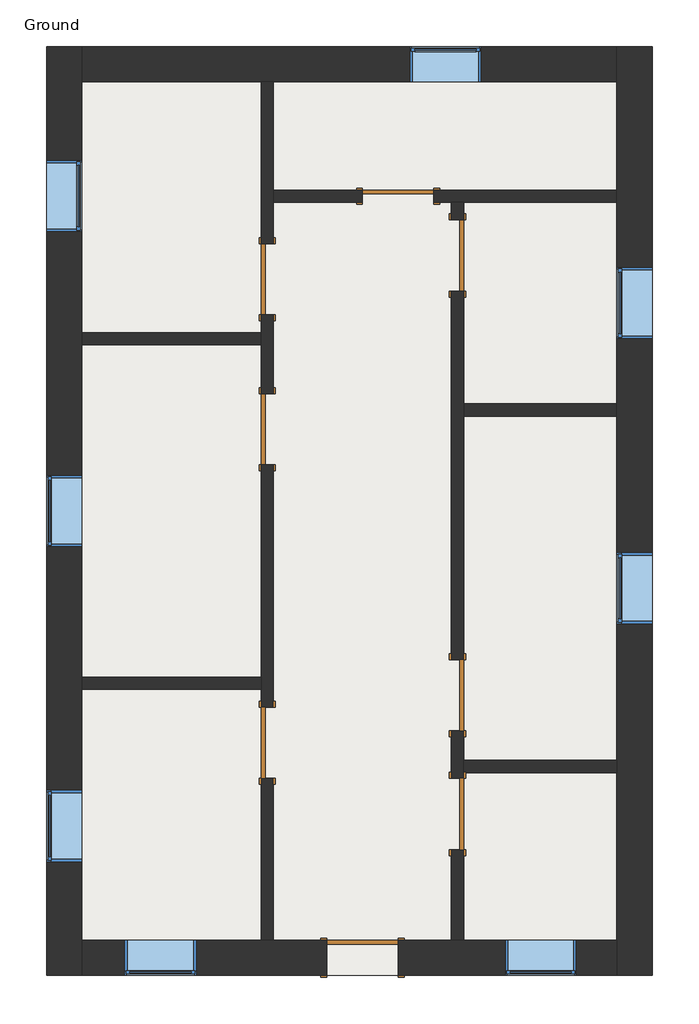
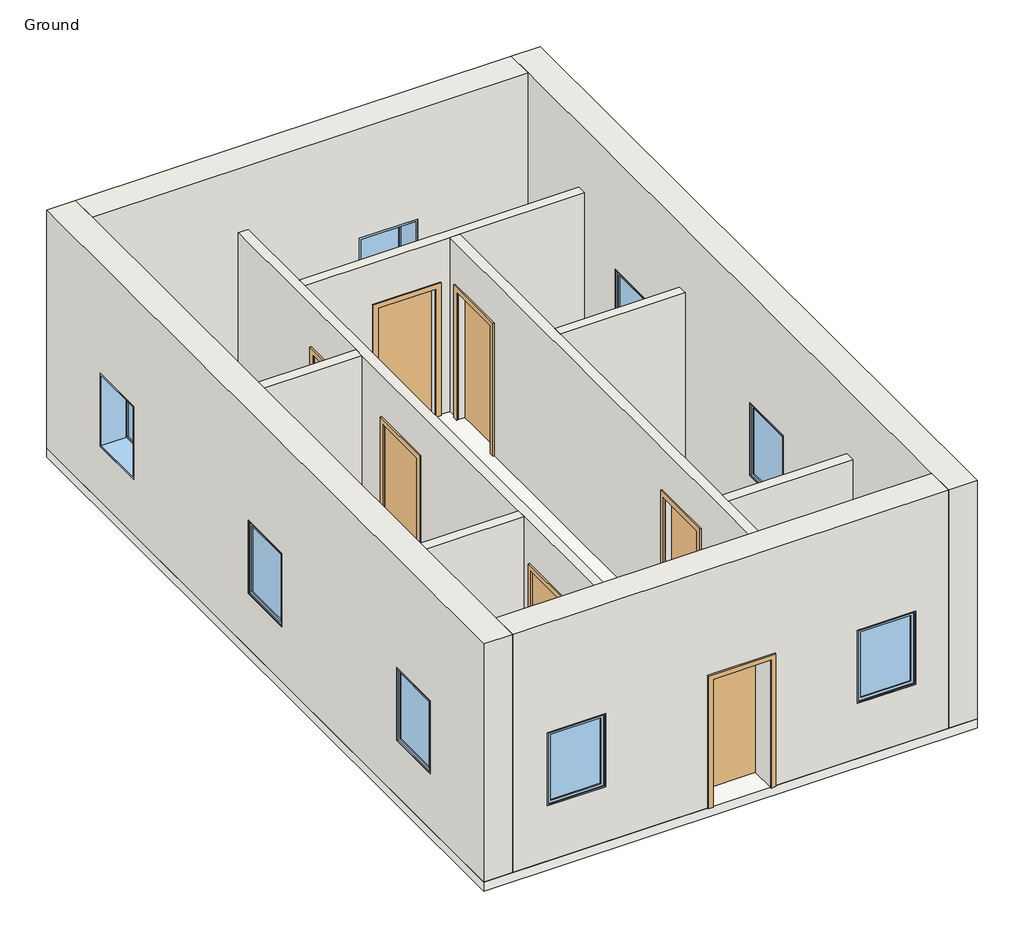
# One storey: 11 walls, 8 doors, 8 windows, 1 slab.
"""IFC4 building model written with IfcOpenShell, lengths in millimetres."""

import ifcopenshell
import ifcopenshell.guid

model = None  # the IFC model being written
_history = None  # IfcOwnerHistory: only IFC2X3 demands one
_inside = {}  # id of a spatial element -> (the spatial element, [elements in it])
_under = {}  # id of a project, library or spatial element -> (it, [spatial elements below it])
_declared = {}  # id of a project -> (the project, [libraries it declares])
_typed = {}  # id of a type object -> (the type object, [elements of that type])
_made_of = {}  # id of a material, layer set ... -> (it, [elements and type objects made of it])


def new_model(schema):
    """Start an empty IFC model of exactly this schema.

    Asked for "IFC4X3", IfcOpenShell would pick the latest addendum, in which some entities
    have other attributes; the version numbers below select the first issue.
    IFC2X3 requires an IfcOwnerHistory on every rooted entity: one is made here for all.
    """
    global model, _history
    if schema == "IFC4X3":
        model = ifcopenshell.file(schema_version=(4, 3, 0, 0))
    else:
        model = ifcopenshell.file(schema=schema)
    _inside.clear()
    _under.clear()
    _declared.clear()
    _typed.clear()
    _made_of.clear()
    _history = None
    if model.schema == "IFC2X3":
        org = make("IfcOrganization", Name="unknown")
        user = make(
            "IfcPersonAndOrganization",
            ThePerson=make("IfcPerson", FamilyName="unknown"),
            TheOrganization=org,
        )
        app = make(
            "IfcApplication",
            ApplicationDeveloper=org,
            Version="unknown",
            ApplicationFullName="unknown",
            ApplicationIdentifier="unknown",
        )
        _history = make(
            "IfcOwnerHistory",
            OwningUser=user,
            OwningApplication=app,
            ChangeAction="ADDED",
            CreationDate=0,
        )
    return model


def make(cls, **values):
    """One entity of the class cls with the attributes given. An attribute that is None is left unset."""
    return model.create_entity(
        cls, **{name: value for name, value in values.items() if value is not None}
    )


def rooted(cls, **values):
    """An entity with a GlobalId (a new one), such as an element, a storey or a relation."""
    return make(cls, GlobalId=ifcopenshell.guid.new(), OwnerHistory=_history, **values)


def si_unit(unit_type, name, prefix=None):
    """IfcSIUnit, for example si_unit("LENGTHUNIT", "METRE", prefix="MILLI")."""
    return make("IfcSIUnit", UnitType=unit_type, Prefix=prefix, Name=name)


def assignment(units):
    """IfcUnitAssignment: the units of a project."""
    return None if units is None else make("IfcUnitAssignment", Units=units)


def point(xyz):
    """IfcCartesianPoint."""
    return None if xyz is None else make("IfcCartesianPoint", Coordinates=xyz)


def direction(xyz):
    """IfcDirection."""
    return None if xyz is None else make("IfcDirection", DirectionRatios=xyz)


def frame(location, z_axis=None, x_axis=None):
    """IfcAxis2Placement3D, a coordinate frame: its origin and axes. An axis left out is left unset."""
    return make(
        "IfcAxis2Placement3D",
        Location=point(location),
        Axis=direction(z_axis),
        RefDirection=direction(x_axis),
    )


def origin():
    """The frame at (0, 0, 0) with its axes left unset."""
    return frame((0.0, 0.0, 0.0))


def origin_with_axes():
    """The frame at (0, 0, 0) with the z axis (0, 0, 1) and the x axis (1, 0, 0) written out."""
    return frame((0.0, 0.0, 0.0), z_axis=(0.0, 0.0, 1.0), x_axis=(1.0, 0.0, 0.0))


def place(relative_to, where):
    """IfcLocalPlacement: puts the frame where relative to a parent placement (None: the world)."""
    return make(
        "IfcLocalPlacement", PlacementRelTo=relative_to, RelativePlacement=where
    )


def context(
    kind, dimensions, precision=None, world=None, true_north=None, identifier=None
):
    """IfcGeometricRepresentationContext, for example the 3D "Model" context."""
    return make(
        "IfcGeometricRepresentationContext",
        ContextIdentifier=identifier,
        ContextType=kind,
        CoordinateSpaceDimension=dimensions,
        Precision=precision,
        WorldCoordinateSystem=world,
        TrueNorth=true_north,
    )


def project(units=None, contexts=None):
    """IfcProject with its units and contexts."""
    return rooted(
        "IfcProject",
        Name="project",
        RepresentationContexts=contexts,
        UnitsInContext=assignment(units),
    )


def spatial(cls, under=None, at=None, **own):
    """A site, building, storey or space (cls), placed at a placement, below another one or the project."""
    s = rooted(cls, ObjectPlacement=at, **own)
    if under is not None:
        _under.setdefault(under.id(), (under, []))[1].append(s)
    return s


def polyline(points):
    """IfcPolyline through the points."""
    return make("IfcPolyline", Points=[point(p) for p in points])


def outline(outer, holes=None, kind="AREA"):
    """IfcArbitraryClosedProfileDef: a profile drawn as a closed curve; with holes, ...WithVoids."""
    if holes is None:
        return make("IfcArbitraryClosedProfileDef", ProfileType=kind, OuterCurve=outer)
    return make(
        "IfcArbitraryProfileDefWithVoids",
        ProfileType=kind,
        OuterCurve=outer,
        InnerCurves=holes,
    )


def extrude(swept, where, along, depth):
    """IfcExtrudedAreaSolid: the profile swept, set in the frame where, extruded along a direction by depth."""
    return make(
        "IfcExtrudedAreaSolid",
        SweptArea=swept,
        Position=where,
        ExtrudedDirection=direction(along),
        Depth=depth,
    )


def faces_of(points, faces, orient=None, outer=None):
    """IfcFace entities. A face is a list of loops; a loop is a list of indices into points, from 0.

    orient and outer hold one flag for each loop. By default every Orientation is true, the
    first loop of a face is its IfcFaceOuterBound and the others are IfcFaceBound.
    """
    made = []
    for i, loops in enumerate(faces):
        bounds = []
        for j, loop in enumerate(loops):
            is_outer = j == 0 if outer is None else outer[i][j]
            bounds.append(
                make(
                    "IfcFaceOuterBound" if is_outer else "IfcFaceBound",
                    Bound=make("IfcPolyLoop", Polygon=[points[k] for k in loop]),
                    Orientation=True if orient is None else orient[i][j],
                )
            )
        made.append(make("IfcFace", Bounds=bounds))
    return made


def faceted_brep(points, faces, orient=None, outer=None, voids=None):
    """IfcFacetedBrep: a solid bounded by flat faces; with voids (closed shells), ...WithVoids."""
    shared = [point(p) for p in points]
    hull = make("IfcClosedShell", CfsFaces=faces_of(shared, faces, orient, outer))
    if voids is None:
        return make("IfcFacetedBrep", Outer=hull)
    return make(
        "IfcFacetedBrepWithVoids",
        Outer=hull,
        Voids=[
            make(cls, CfsFaces=faces_of(shared, fs, o, b)) for cls, fs, o, b in voids
        ],
    )


def shape(context_of_items, identifier, shape_type, items):
    """IfcShapeRepresentation: the items that make up one representation, for example the "Body"."""
    return make(
        "IfcShapeRepresentation",
        ContextOfItems=context_of_items,
        RepresentationIdentifier=identifier,
        RepresentationType=shape_type,
        Items=items,
    )


def source(mapping_origin, context_of_items, identifier, shape_type, items):
    """IfcRepresentationMap: a shape defined once, which mapped items show again and again."""
    return make(
        "IfcRepresentationMap",
        MappingOrigin=mapping_origin,
        MappedRepresentation=shape(context_of_items, identifier, shape_type, items),
    )


def transform(
    local_origin,
    x_axis=None,
    y_axis=None,
    z_axis=None,
    scale=None,
    scale2=None,
    scale3=None,
    uniform=True,
):
    """IfcCartesianTransformationOperator3D, or its non-uniform kind. x_axis, y_axis, z_axis: its Axis1, 2, 3."""
    if uniform:
        return make(
            "IfcCartesianTransformationOperator3D",
            Axis1=direction(x_axis),
            Axis2=direction(y_axis),
            LocalOrigin=point(local_origin),
            Scale=scale,
            Axis3=direction(z_axis),
        )
    return make(
        "IfcCartesianTransformationOperator3DnonUniform",
        Axis1=direction(x_axis),
        Axis2=direction(y_axis),
        LocalOrigin=point(local_origin),
        Scale=scale,
        Axis3=direction(z_axis),
        Scale2=scale2,
        Scale3=scale3,
    )


def mapped(mapping_source, mapping_target):
    """IfcMappedItem: shows the shape of a source again, moved by a transform."""
    return make(
        "IfcMappedItem", MappingSource=mapping_source, MappingTarget=mapping_target
    )


def made_of(thing, what):
    """Note that an element or type object is made of a material, layer set ...; save() writes the relation."""
    if what is not None:
        _made_of.setdefault(what.id(), (what, []))[1].append(thing)
    return thing


def element(
    cls,
    number,
    at=None,
    inside=None,
    cuts=None,
    type_object=None,
    material=None,
    context=None,
    identifier="Body",
    shape_type=None,
    held_by="IfcProductDefinitionShape",
    body=None,
    shapes=None,
    **own,
):
    """One element of the class cls, such as IfcWall. Its Tag is "e" and its number.

    at: its placement. inside: the storey or other place that contains it. cuts: it is an
    opening in that element (IfcRelVoidsElement). A single representation is given by context,
    identifier, shape_type and body (its items); several are given by shapes. held_by: the class
    of the entity that holds the representations. save() writes the other relations.
    """
    e = rooted(cls, Tag="e%d" % number, ObjectPlacement=at, **own)
    if body is not None:
        shapes = [shape(context, identifier, shape_type, body)]
    if shapes is not None:
        e.Representation = make(held_by, Representations=shapes)
    if inside is not None:
        _inside.setdefault(inside.id(), (inside, []))[1].append(e)
    if cuts is not None:
        rooted(
            "IfcRelVoidsElement", RelatingBuildingElement=cuts, RelatedOpeningElement=e
        )
    if type_object is not None:
        _typed.setdefault(type_object.id(), (type_object, []))[1].append(e)
    return made_of(e, material)


def aggregate(whole, parts):
    """IfcRelAggregates: a whole, such as a stair, and the parts it consists of."""
    return rooted("IfcRelAggregates", RelatingObject=whole, RelatedObjects=parts)


def save(model, path):
    """Write the relations noted so far, then the file.

    IfcRelAggregates (storeys below a building ...), IfcRelContainedInSpatialStructure (elements
    in a storey), IfcRelDefinesByType, IfcRelAssociatesMaterial and IfcRelDeclares: one each for
    every whole, place, type object, material and project.
    """
    for whole, parts in _under.values():
        aggregate(whole, parts)
    for where, things in _inside.values():
        rooted(
            "IfcRelContainedInSpatialStructure",
            RelatedElements=things,
            RelatingStructure=where,
        )
    for kind, things in _typed.values():
        rooted("IfcRelDefinesByType", RelatedObjects=things, RelatingType=kind)
    for what, things in _made_of.values():
        rooted("IfcRelAssociatesMaterial", RelatedObjects=things, RelatingMaterial=what)
    for by, libraries in _declared.values():
        rooted("IfcRelDeclares", RelatingContext=by, RelatedDefinitions=libraries)
    model.write(path)


def door_506e7aec(model_context):
    return source(origin(), model_context, "Body", "SweptSolid", [
        extrude(outline(polyline([(2209.8, -533.4), (0.0, -533.4), (0.0, -457.2), (2133.6, -457.2), (2133.6, 457.2), (0.0, 457.2), (0.0, 533.4), (2209.8, 533.4), (2209.8, -533.4)])), frame((0.0, 227.0125, 0.0), z_axis=(0.0, 1.0, 0.0), x_axis=(0.0, 0.0, 1.0)), (0.0, 0.0, 1.0), 25.4),
        extrude(outline(polyline([(2209.8, 533.4), (2209.8, -533.4), (0.0, -533.4), (0.0, -457.2), (2133.6, -457.2), (2133.6, 457.2), (0.0, 457.2), (0.0, 533.4), (2209.8, 533.4)])), frame((0.0, -252.4125, 0.0), z_axis=(0.0, 1.0, 0.0), x_axis=(0.0, 0.0, 1.0)), (0.0, 0.0, 1.0), 25.4),
        extrude(outline(polyline([(457.2, 176.2125), (-457.2, 176.2125), (-457.2, 227.0125), (457.2, 227.0125), (457.2, 176.2125)])), origin_with_axes(), (0.0, 0.0, 1.0), 2133.6),
    ])


def door_0f164b8f(model_context):
    return source(origin(), model_context, "Body", "SweptSolid", [
        extrude(outline(polyline([(2209.8, -533.4), (0.0, -533.4), (0.0, -457.2), (2133.6, -457.2), (2133.6, 457.2), (0.0, 457.2), (0.0, 533.4), (2209.8, 533.4), (2209.8, -533.4)])), frame((0.0, -103.1875, 0.0), z_axis=(0.0, 1.0, 0.0), x_axis=(0.0, 0.0, 1.0)), (0.0, 0.0, 1.0), 25.4),
        extrude(outline(polyline([(2209.8, 533.4), (2209.8, -533.4), (0.0, -533.4), (0.0, -457.2), (2133.6, -457.2), (2133.6, 457.2), (0.0, 457.2), (0.0, 533.4), (2209.8, 533.4)])), frame((0.0, 77.7875, 0.0), z_axis=(0.0, 1.0, 0.0), x_axis=(0.0, 0.0, 1.0)), (0.0, 0.0, 1.0), 25.4),
        extrude(outline(polyline([(457.2, -26.9875), (457.2, -77.7875), (-457.2, -77.7875), (-457.2, -26.9875), (457.2, -26.9875)])), origin_with_axes(), (0.0, 0.0, 1.0), 2133.6),
    ])


def door_f9494b7c(model_context):
    return source(origin(), model_context, "Body", "SweptSolid", [
        extrude(outline(polyline([(2209.8, -533.4), (0.0, -533.4), (0.0, -457.2), (2133.6, -457.2), (2133.6, 457.2), (0.0, 457.2), (0.0, 533.4), (2209.8, 533.4), (2209.8, -533.4)])), frame((0.0, 77.7875, 0.0), z_axis=(0.0, 1.0, 0.0), x_axis=(0.0, 0.0, 1.0)), (0.0, 0.0, 1.0), 25.4),
        extrude(outline(polyline([(2209.8, 533.4), (2209.8, -533.4), (0.0, -533.4), (0.0, -457.2), (2133.6, -457.2), (2133.6, 457.2), (0.0, 457.2), (0.0, 533.4), (2209.8, 533.4)])), frame((0.0, -103.1875, 0.0), z_axis=(0.0, 1.0, 0.0), x_axis=(0.0, 0.0, 1.0)), (0.0, 0.0, 1.0), 25.4),
        extrude(outline(polyline([(457.2, 26.9875), (-457.2, 26.9875), (-457.2, 77.7875), (457.2, 77.7875), (457.2, 26.9875)])), origin_with_axes(), (0.0, 0.0, 1.0), 2133.6),
    ])


def window_035c3bc4(model_context):
    return source(origin(), model_context, "Body", "SweptSolid", [
        extrude(outline(polyline([(355.6, 179.3875), (-431.8, 179.3875), (-431.8, 192.0875), (355.6, 192.0875), (355.6, 179.3875)])), frame((0.0, 0.0, 977.9), z_axis=(0.0, 0.0, 1.0), x_axis=(1.0, 0.0, 0.0)), (0.0, 0.0, 1.0), 1092.2),
        extrude(outline(polyline([(2114.55, -476.25), (933.45, -476.25), (933.45, 400.05), (2114.55, 400.05), (2114.55, -476.25)]), holes=[polyline([(2070.1, -431.8), (2070.1, 355.6), (977.9, 355.6), (977.9, -431.8), (2070.1, -431.8)])]), frame((0.0, 163.5125, 0.0), z_axis=(0.0, 1.0, 0.0), x_axis=(0.0, 0.0, 1.0)), (0.0, 0.0, 1.0), 44.45),
        extrude(outline(polyline([(2133.6, -495.3), (914.4, -495.3), (914.4, 419.1), (2133.6, 419.1), (2133.6, -495.3)]), holes=[polyline([(2101.85, -463.55), (2101.85, 387.35), (946.15, 387.35), (946.15, -463.55), (2101.85, -463.55)])]), frame((0.0, -227.0125, 0.0), z_axis=(0.0, 1.0, 0.0), x_axis=(0.0, 0.0, 1.0)), (0.0, 0.0, 1.0), 390.525),
        extrude(outline(polyline([(2133.6, 419.1), (2133.6, -495.3), (914.4, -495.3), (914.4, 419.1), (2133.6, 419.1)]), holes=[polyline([(2114.55, 400.05), (933.45, 400.05), (933.45, -476.25), (2114.55, -476.25), (2114.55, 400.05)])]), frame((0.0, 163.5125, 0.0), z_axis=(0.0, 1.0, 0.0), x_axis=(0.0, 0.0, 1.0)), (0.0, 0.0, 1.0), 63.5),
    ])


model = new_model("IFC4")

# Units and contexts
model_context = context("Model", 3, world=origin())
ifc_project = project(units=[si_unit("LENGTHUNIT", "METRE", prefix="MILLI")], contexts=[model_context])

# Site, building, storey
site = spatial("IfcSite", under=ifc_project)
building = spatial("IfcBuilding", under=site)
storey = spatial("IfcBuildingStorey", under=building, Name="Ground", Elevation=0.0)

# Doors
placement = place(None, origin())
door_shape = door_506e7aec(model_context)
element("IfcDoor", 1, ObjectType="Single-Flush : 36\" x 84\"", at=placement, inside=storey, context=model_context, shape_type="MappedRepresentation", body=[
    mapped(door_shape, transform((3809.930674, 8860.2671638, 0.0), x_axis=(1.0, 0.0, 0.0), y_axis=(0.0, 1.0, 0.0), z_axis=(0.0, 0.0, 1.0))),
])
door_2_shape = door_0f164b8f(model_context)
element("IfcDoor", 2, ObjectType="Single-Flush : 36\" x 84\"", at=placement, inside=storey, context=model_context, shape_type="MappedRepresentation", body=[
    mapped(door_2_shape, transform((2590.730674, 17561.3546638, 0.0), x_axis=(0.0, -1.0, 0.0), y_axis=(1.0, 0.0, 0.0), z_axis=(0.0, 0.0, 1.0))),
])
element("IfcDoor", 3, ObjectType="Single-Flush : 36\" x 84\"", at=placement, inside=storey, context=model_context, shape_type="MappedRepresentation", body=[
    mapped(door_2_shape, transform((5029.130674, 10703.3546638, 0.0), x_axis=(0.0, 1.0, 0.0), y_axis=(-1.0, 0.0, 0.0), z_axis=(0.0, 0.0, 1.0))),
])
element("IfcDoor", 4, ObjectType="Single-Flush : 36\" x 84\"", at=placement, inside=storey, context=model_context, shape_type="MappedRepresentation", body=[
    mapped(door_2_shape, transform((5029.130674, 17866.1546638, 0.0), x_axis=(0.0, 1.0, 0.0), y_axis=(-1.0, 0.0, 0.0), z_axis=(0.0, 0.0, 1.0))),
])
door_3_shape = door_f9494b7c(model_context)
element("IfcDoor", 5, ObjectType="Single-Flush : 36\" x 84\"", at=placement, inside=storey, context=model_context, shape_type="MappedRepresentation", body=[
    mapped(door_3_shape, transform((2590.730674, 15638.8921638, 0.0), x_axis=(0.0, 1.0, 0.0), y_axis=(-1.0, 0.0, 0.0), z_axis=(0.0, 0.0, 1.0))),
])
element("IfcDoor", 6, ObjectType="Single-Flush : 36\" x 84\"", at=placement, inside=storey, context=model_context, shape_type="MappedRepresentation", body=[
    mapped(door_3_shape, transform((2590.730674, 11617.7546638, 0.0), x_axis=(0.0, 1.0, 0.0), y_axis=(-1.0, 0.0, 0.0), z_axis=(0.0, 0.0, 1.0))),
])
element("IfcDoor", 7, ObjectType="Single-Flush : 36\" x 84\"", at=placement, inside=storey, context=model_context, shape_type="MappedRepresentation", body=[
    mapped(door_3_shape, transform((5029.130674, 12227.3546638, 0.0), x_axis=(0.0, -1.0, 0.0), y_axis=(1.0, 0.0, 0.0), z_axis=(0.0, 0.0, 1.0))),
])
element("IfcDoor", 8, ObjectType="Single-Flush : 36\" x 84\"", at=placement, inside=storey, context=model_context, shape_type="MappedRepresentation", body=[
    mapped(door_3_shape, transform((4267.130674, 18628.1546638, 0.0), x_axis=(1.0, 0.0, 0.0), y_axis=(0.0, 1.0, 0.0), z_axis=(0.0, 0.0, 1.0))),
])

# Slab
element("IfcSlab", 9, ObjectType="Concrete Slab - 6\"", at=placement, inside=storey, context=model_context, shape_type="SweptSolid", body=[
    extrude(outline(polyline([(7527.855674, 20545.8546638), (7527.855674, 8633.2546638), (-241.369326, 8633.2546638), (-241.369326, 20545.8546638), (7527.855674, 20545.8546638)])), frame((0.0, 0.0, -152.4), z_axis=(0.0, 0.0, 1.0), x_axis=(1.0, 0.0, 0.0)), (0.0, 0.0, 1.0), 152.4),
])

# Walls
element("IfcWall", 10, ObjectType="Exterior - CMU on Mtl. Stud", at=placement, inside=storey, context=model_context, shape_type="Brep", body=[
    faceted_brep([(-241.369326, 20545.8546638, 0.0), (-241.369326, 8633.2546638, 0.0), (-241.369326, 8633.2546638, 3962.4), (-241.369326, 20545.8546638, 3962.4), (-241.369326, 18170.9546638, 2133.6), (-241.369326, 18170.9546638, 914.4), (-241.369326, 19085.3546638, 914.4), (-241.369326, 19085.3546638, 2133.6), (-241.369326, 15046.7546638, 2133.6), (-241.369326, 14132.3546638, 2133.6), (-241.369326, 14132.3546638, 914.4), (-241.369326, 15046.7546638, 914.4), (-241.369326, 11008.1546638, 2133.6), (-241.369326, 10093.7546638, 2133.6), (-241.369326, 10093.7546638, 914.4), (-241.369326, 11008.1546638, 914.4), (212.655674, 20545.8546638, 0.0), (212.655674, 20545.8546638, 3962.4), (212.655674, 20091.8296638, 3962.4), (212.655674, 9087.2796638, 3962.4), (212.655674, 8633.2546638, 3962.4), (212.655674, 8633.2546638, 0.0), (212.655674, 9087.2796638, 0.0), (212.655674, 12301.9671638, 0.0), (212.655674, 12457.5421638, 0.0), (212.655674, 16721.5671638, 0.0), (212.655674, 16877.1421638, 0.0), (212.655674, 20091.8296638, 0.0), (212.655674, 18170.9546638, 2133.6), (212.655674, 19085.3546638, 2133.6), (212.655674, 19085.3546638, 914.4), (212.655674, 18170.9546638, 914.4), (212.655674, 15046.7546638, 2133.6), (212.655674, 15046.7546638, 914.4), (212.655674, 14132.3546638, 914.4), (212.655674, 14132.3546638, 2133.6), (212.655674, 11008.1546638, 2133.6), (212.655674, 11008.1546638, 914.4), (212.655674, 10093.7546638, 914.4), (212.655674, 10093.7546638, 2133.6)], [[[0, 1, 2, 3], [4, 5, 6, 7], [8, 9, 10, 11], [12, 13, 14, 15]], [[16, 17, 18, 19, 20, 21, 22, 23, 24, 25, 26, 27], [28, 29, 30, 31], [32, 33, 34, 35], [36, 37, 38, 39]], [[1, 0, 16, 27, 26, 25, 24, 23, 22, 21]], [[3, 2, 20, 19, 18, 17]], [[2, 1, 21, 20]], [[0, 3, 17, 16]], [[5, 4, 28, 31]], [[6, 5, 31, 30]], [[7, 6, 30, 29]], [[4, 7, 29, 28]], [[33, 32, 8, 11]], [[34, 33, 11, 10]], [[35, 34, 10, 9]], [[32, 35, 9, 8]], [[37, 36, 12, 15]], [[38, 37, 15, 14]], [[39, 38, 14, 13]], [[36, 39, 13, 12]]]),
])
element("IfcWall", 11, ObjectType="Exterior - CMU on Mtl. Stud", at=placement, inside=storey, context=model_context, shape_type="Brep", body=[
    faceted_brep([(4267.130674, 8633.2546638, 2133.6), (4267.130674, 8633.2546638, 0.0), (7073.830674, 8633.2546638, 0.0), (7073.830674, 8633.2546638, 3962.4), (212.655674, 8633.2546638, 3962.4), (212.655674, 8633.2546638, 0.0), (3352.730674, 8633.2546638, 0.0), (3352.730674, 8633.2546638, 2133.6), (761.930674, 8633.2546638, 2133.6), (1676.330674, 8633.2546638, 2133.6), (1676.330674, 8633.2546638, 914.4), (761.930674, 8633.2546638, 914.4), (5638.730674, 8633.2546638, 2133.6), (6553.130674, 8633.2546638, 2133.6), (6553.130674, 8633.2546638, 914.4), (5638.730674, 8633.2546638, 914.4), (7073.830674, 9087.2796638, 0.0), (5106.918174, 9087.2796638, 0.0), (4951.343174, 9087.2796638, 0.0), (4267.130674, 9087.2796638, 0.0), (4267.130674, 9087.2796638, 2133.6), (3352.730674, 9087.2796638, 2133.6), (3352.730674, 9087.2796638, 0.0), (2668.518174, 9087.2796638, 0.0), (2512.943174, 9087.2796638, 0.0), (212.655674, 9087.2796638, 0.0), (212.655674, 9087.2796638, 3962.4), (7073.830674, 9087.2796638, 3962.4), (761.930674, 9087.2796638, 2133.6), (761.930674, 9087.2796638, 914.4), (1676.330674, 9087.2796638, 914.4), (1676.330674, 9087.2796638, 2133.6), (5638.730674, 9087.2796638, 2133.6), (5638.730674, 9087.2796638, 914.4), (6553.130674, 9087.2796638, 914.4), (6553.130674, 9087.2796638, 2133.6)], [[[0, 1, 2, 3, 4, 5, 6, 7], [8, 9, 10, 11], [12, 13, 14, 15]], [[16, 17, 18, 19, 20, 21, 22, 23, 24, 25, 26, 27], [28, 29, 30, 31], [32, 33, 34, 35]], [[6, 5, 25, 24, 23, 22]], [[2, 1, 19, 18, 17, 16]], [[4, 3, 27, 26]], [[5, 4, 26, 25]], [[3, 2, 16, 27]], [[20, 19, 1, 0]], [[21, 20, 0, 7]], [[22, 21, 7, 6]], [[29, 28, 8, 11]], [[30, 29, 11, 10]], [[31, 30, 10, 9]], [[28, 31, 9, 8]], [[33, 32, 12, 15]], [[34, 33, 15, 14]], [[35, 34, 14, 13]], [[32, 35, 13, 12]]]),
])
element("IfcWall", 12, ObjectType="Exterior - CMU on Mtl. Stud", at=placement, inside=storey, context=model_context, shape_type="Brep", body=[
    faceted_brep([(7073.830674, 20545.8546638, 0.0), (212.655674, 20545.8546638, 0.0), (212.655674, 20545.8546638, 3962.4), (7073.830674, 20545.8546638, 3962.4), (5333.930674, 20545.8546638, 2133.6), (4419.530674, 20545.8546638, 2133.6), (4419.530674, 20545.8546638, 914.4), (5333.930674, 20545.8546638, 914.4), (7073.830674, 20091.8296638, 0.0), (7073.830674, 20091.8296638, 3962.4), (212.655674, 20091.8296638, 3962.4), (212.655674, 20091.8296638, 0.0), (2512.943174, 20091.8296638, 0.0), (2668.518174, 20091.8296638, 0.0), (5333.930674, 20091.8296638, 2133.6), (5333.930674, 20091.8296638, 914.4), (4419.530674, 20091.8296638, 914.4), (4419.530674, 20091.8296638, 2133.6)], [[[0, 1, 2, 3], [4, 5, 6, 7]], [[8, 9, 10, 11, 12, 13], [14, 15, 16, 17]], [[1, 0, 8, 13, 12, 11]], [[3, 2, 10, 9]], [[2, 1, 11, 10]], [[0, 3, 9, 8]], [[15, 14, 4, 7]], [[16, 15, 7, 6]], [[17, 16, 6, 5]], [[14, 17, 5, 4]]]),
])
element("IfcWall", 13, ObjectType="Exterior - CMU on Mtl. Stud", at=placement, inside=storey, context=model_context, shape_type="Brep", body=[
    faceted_brep([(7073.830674, 20545.8546638, 0.0), (7073.830674, 20091.8296638, 0.0), (7073.830674, 18705.9421638, 0.0), (7073.830674, 18550.3671638, 0.0), (7073.830674, 15962.7421638, 0.0), (7073.830674, 15807.1671638, 0.0), (7073.830674, 11390.7421638, 0.0), (7073.830674, 11235.1671638, 0.0), (7073.830674, 9087.2796638, 0.0), (7073.830674, 8633.2546638, 0.0), (7073.830674, 8633.2546638, 3962.4), (7073.830674, 9087.2796638, 3962.4), (7073.830674, 20091.8296638, 3962.4), (7073.830674, 20545.8546638, 3962.4), (7073.830674, 14056.1546638, 2133.6), (7073.830674, 13141.7546638, 2133.6), (7073.830674, 13141.7546638, 914.4), (7073.830674, 14056.1546638, 914.4), (7073.830674, 17713.7546638, 2133.6), (7073.830674, 16799.3546638, 2133.6), (7073.830674, 16799.3546638, 914.4), (7073.830674, 17713.7546638, 914.4), (7527.855674, 20545.8546638, 0.0), (7527.855674, 20545.8546638, 3962.4), (7527.855674, 8633.2546638, 3962.4), (7527.855674, 8633.2546638, 0.0), (7527.855674, 14056.1546638, 2133.6), (7527.855674, 14056.1546638, 914.4), (7527.855674, 13141.7546638, 914.4), (7527.855674, 13141.7546638, 2133.6), (7527.855674, 17713.7546638, 2133.6), (7527.855674, 17713.7546638, 914.4), (7527.855674, 16799.3546638, 914.4), (7527.855674, 16799.3546638, 2133.6)], [[[0, 1, 2, 3, 4, 5, 6, 7, 8, 9, 10, 11, 12, 13], [14, 15, 16, 17], [18, 19, 20, 21]], [[22, 23, 24, 25], [26, 27, 28, 29], [30, 31, 32, 33]], [[9, 8, 7, 6, 5, 4, 3, 2, 1, 0, 22, 25]], [[13, 12, 11, 10, 24, 23]], [[0, 13, 23, 22]], [[10, 9, 25, 24]], [[27, 26, 14, 17]], [[28, 27, 17, 16]], [[29, 28, 16, 15]], [[26, 29, 15, 14]], [[31, 30, 18, 21]], [[32, 31, 21, 20]], [[33, 32, 20, 19]], [[30, 33, 19, 18]]]),
])
element("IfcWall", 14, ObjectType="Interior - 6 1/8\" Partition (2-hr)", at=placement, inside=storey, context=model_context, shape_type="Brep", body=[
    faceted_brep([(2512.943174, 15181.6921638, 0.0), (2512.943174, 12457.5421638, 0.0), (2512.943174, 12301.9671638, 0.0), (2512.943174, 12074.9546638, 0.0), (2512.943174, 12074.9546638, 2133.6), (2512.943174, 11160.5546638, 2133.6), (2512.943174, 11160.5546638, 0.0), (2512.943174, 9087.2796638, 0.0), (2512.943174, 9087.2796638, 2895.6), (2512.943174, 12301.9671638, 2895.6), (2512.943174, 12457.5421638, 2895.6), (2512.943174, 16721.5671638, 2895.6), (2512.943174, 16877.1421638, 2895.6), (2512.943174, 20091.8296638, 2895.6), (2512.943174, 20091.8296638, 0.0), (2512.943174, 18018.5546638, 0.0), (2512.943174, 18018.5546638, 2133.6), (2512.943174, 17104.1546638, 2133.6), (2512.943174, 17104.1546638, 0.0), (2512.943174, 16877.1421638, 0.0), (2512.943174, 16721.5671638, 0.0), (2512.943174, 16096.0921638, 0.0), (2512.943174, 16096.0921638, 2133.6), (2512.943174, 15181.6921638, 2133.6), (2668.518174, 12074.9546638, 2133.6), (2668.518174, 12074.9546638, 0.0), (2668.518174, 15181.6921638, 0.0), (2668.518174, 15181.6921638, 2133.6), (2668.518174, 16096.0921638, 2133.6), (2668.518174, 16096.0921638, 0.0), (2668.518174, 17104.1546638, 0.0), (2668.518174, 17104.1546638, 2133.6), (2668.518174, 18018.5546638, 2133.6), (2668.518174, 18018.5546638, 0.0), (2668.518174, 18550.3671638, 0.0), (2668.518174, 18705.9421638, 0.0), (2668.518174, 20091.8296638, 0.0), (2668.518174, 20091.8296638, 2895.6), (2668.518174, 18705.9421638, 2895.6), (2668.518174, 18550.3671638, 2895.6), (2668.518174, 9087.2796638, 2895.6), (2668.518174, 9087.2796638, 0.0), (2668.518174, 11160.5546638, 0.0), (2668.518174, 11160.5546638, 2133.6)], [[[0, 1, 2, 3, 4, 5, 6, 7, 8, 9, 10, 11, 12, 13, 14, 15, 16, 17, 18, 19, 20, 21, 22, 23]], [[24, 25, 26, 27, 28, 29, 30, 31, 32, 33, 34, 35, 36, 37, 38, 39, 40, 41, 42, 43]], [[15, 14, 36, 35, 34, 33]], [[30, 29, 21, 20, 19, 18]], [[42, 41, 7, 6]], [[26, 25, 3, 2, 1, 0]], [[14, 13, 37, 36]], [[8, 7, 41, 40]], [[31, 30, 18, 17]], [[32, 31, 17, 16]], [[33, 32, 16, 15]], [[22, 21, 29, 28]], [[23, 22, 28, 27]], [[0, 23, 27, 26]], [[4, 3, 25, 24]], [[5, 4, 24, 43]], [[6, 5, 43, 42]], [[13, 12, 11, 10, 9, 8, 40, 39, 38, 37]]]),
])
element("IfcWall", 15, ObjectType="Interior - 6 1/8\" Partition (2-hr)", at=placement, inside=storey, context=model_context, shape_type="SweptSolid", body=[
    extrude(outline(polyline([(212.655674, 16877.1421638), (2512.943174, 16877.1421638), (2512.943174, 16721.5671638), (212.655674, 16721.5671638), (212.655674, 16877.1421638)])), origin_with_axes(), (0.0, 0.0, 1.0), 2895.6),
])
element("IfcWall", 16, ObjectType="Interior - 6 1/8\" Partition (2-hr)", at=placement, inside=storey, context=model_context, shape_type="SweptSolid", body=[
    extrude(outline(polyline([(2512.943174, 12301.9671638), (212.655674, 12301.9671638), (212.655674, 12457.5421638), (2512.943174, 12457.5421638), (2512.943174, 12301.9671638)])), origin_with_axes(), (0.0, 0.0, 1.0), 2895.6),
])
element("IfcWall", 17, ObjectType="Interior - 6 1/8\" Partition (2-hr)", at=placement, inside=storey, context=model_context, shape_type="Brep", body=[
    faceted_brep([(4951.343174, 18550.3671638, 0.0), (4951.343174, 18323.3546638, 0.0), (4951.343174, 18323.3546638, 2133.6), (4951.343174, 17408.9546638, 2133.6), (4951.343174, 17408.9546638, 0.0), (4951.343174, 12684.5546638, 0.0), (4951.343174, 12684.5546638, 2133.6), (4951.343174, 11770.1546638, 2133.6), (4951.343174, 11770.1546638, 0.0), (4951.343174, 11160.5546638, 0.0), (4951.343174, 11160.5546638, 2133.6), (4951.343174, 10246.1546638, 2133.6), (4951.343174, 10246.1546638, 0.0), (4951.343174, 9087.2796638, 0.0), (4951.343174, 9087.2796638, 2895.6), (4951.343174, 18550.3671638, 2895.6), (5106.918174, 18323.3546638, 2133.6), (5106.918174, 18323.3546638, 0.0), (5106.918174, 18550.3671638, 0.0), (5106.918174, 18550.3671638, 2895.6), (5106.918174, 15962.7421638, 2895.6), (5106.918174, 15807.1671638, 2895.6), (5106.918174, 11390.7421638, 2895.6), (5106.918174, 11235.1671638, 2895.6), (5106.918174, 9087.2796638, 2895.6), (5106.918174, 9087.2796638, 0.0), (5106.918174, 10246.1546638, 0.0), (5106.918174, 10246.1546638, 2133.6), (5106.918174, 11160.5546638, 2133.6), (5106.918174, 11160.5546638, 0.0), (5106.918174, 11235.1671638, 0.0), (5106.918174, 11390.7421638, 0.0), (5106.918174, 11770.1546638, 0.0), (5106.918174, 11770.1546638, 2133.6), (5106.918174, 12684.5546638, 2133.6), (5106.918174, 12684.5546638, 0.0), (5106.918174, 15807.1671638, 0.0), (5106.918174, 15962.7421638, 0.0), (5106.918174, 17408.9546638, 0.0), (5106.918174, 17408.9546638, 2133.6)], [[[0, 1, 2, 3, 4, 5, 6, 7, 8, 9, 10, 11, 12, 13, 14, 15]], [[16, 17, 18, 19, 20, 21, 22, 23, 24, 25, 26, 27, 28, 29, 30, 31, 32, 33, 34, 35, 36, 37, 38, 39]], [[26, 25, 13, 12]], [[9, 8, 32, 31, 30, 29]], [[18, 17, 1, 0]], [[38, 37, 36, 35, 5, 4]], [[14, 13, 25, 24]], [[0, 15, 19, 18]], [[10, 9, 29, 28]], [[11, 10, 28, 27]], [[12, 11, 27, 26]], [[33, 32, 8, 7]], [[34, 33, 7, 6]], [[35, 34, 6, 5]], [[2, 1, 17, 16]], [[3, 2, 16, 39]], [[4, 3, 39, 38]], [[15, 14, 24, 23, 22, 21, 20, 19]]]),
])
element("IfcWall", 18, ObjectType="Interior - 6 1/8\" Partition (2-hr)", at=placement, inside=storey, context=model_context, shape_type="SweptSolid", body=[
    extrude(outline(polyline([(5106.918174, 15962.7421638), (7073.830674, 15962.7421638), (7073.830674, 15807.1671638), (5106.918174, 15807.1671638), (5106.918174, 15962.7421638)])), origin_with_axes(), (0.0, 0.0, 1.0), 2895.6),
])
element("IfcWall", 19, ObjectType="Interior - 6 1/8\" Partition (2-hr)", at=placement, inside=storey, context=model_context, shape_type="SweptSolid", body=[
    extrude(outline(polyline([(5106.918174, 11390.7421638), (7073.830674, 11390.7421638), (7073.830674, 11235.1671638), (5106.918174, 11235.1671638), (5106.918174, 11390.7421638)])), origin_with_axes(), (0.0, 0.0, 1.0), 2895.6),
])
element("IfcWall", 20, ObjectType="Interior - 6 1/8\" Partition (2-hr)", at=placement, inside=storey, context=model_context, shape_type="Brep", body=[
    faceted_brep([(4724.330674, 18550.3671638, 2133.6), (4724.330674, 18550.3671638, 0.0), (4951.343174, 18550.3671638, 0.0), (5106.918174, 18550.3671638, 0.0), (7073.830674, 18550.3671638, 0.0), (7073.830674, 18550.3671638, 2895.6), (5106.918174, 18550.3671638, 2895.6), (4951.343174, 18550.3671638, 2895.6), (2668.518174, 18550.3671638, 2895.6), (2668.518174, 18550.3671638, 0.0), (3809.930674, 18550.3671638, 0.0), (3809.930674, 18550.3671638, 2133.6), (7073.830674, 18705.9421638, 0.0), (4724.330674, 18705.9421638, 0.0), (4724.330674, 18705.9421638, 2133.6), (3809.930674, 18705.9421638, 2133.6), (3809.930674, 18705.9421638, 0.0), (2668.518174, 18705.9421638, 0.0), (2668.518174, 18705.9421638, 2895.6), (7073.830674, 18705.9421638, 2895.6)], [[[0, 1, 2, 3, 4, 5, 6, 7, 8, 9, 10, 11]], [[12, 13, 14, 15, 16, 17, 18, 19]], [[10, 9, 17, 16]], [[4, 3, 2, 1, 13, 12]], [[5, 4, 12, 19]], [[9, 8, 18, 17]], [[14, 13, 1, 0]], [[15, 14, 0, 11]], [[16, 15, 11, 10]], [[8, 7, 6, 5, 19, 18]]]),
])

# Windows
window_shape = window_035c3bc4(model_context)
element("IfcWindow", 21, ObjectType="Fixed : 36\" x 48\"", at=placement, inside=storey, context=model_context, shape_type="MappedRepresentation", body=[
    mapped(window_shape, transform((4914.830674, 20318.8421638, 0.0), x_axis=(1.0, 0.0, 0.0), y_axis=(0.0, 1.0, 0.0), z_axis=(0.0, 0.0, 1.0))),
])
element("IfcWindow", 22, ObjectType="Fixed : 36\" x 48\"", at=placement, inside=storey, context=model_context, shape_type="MappedRepresentation", body=[
    mapped(window_shape, transform((-14.356826, 18590.0546638, 0.0), x_axis=(0.0, -1.0, 0.0), y_axis=(1.0, 0.0, 0.0), z_axis=(0.0, 0.0, 1.0))),
])
element("IfcWindow", 23, ObjectType="Fixed : 36\" x 48\"", at=placement, inside=storey, context=model_context, shape_type="MappedRepresentation", body=[
    mapped(window_shape, transform((-14.356826, 14627.6546638, 0.0), x_axis=(0.0, 1.0, 0.0), y_axis=(-1.0, 0.0, 0.0), z_axis=(0.0, 0.0, 1.0))),
])
element("IfcWindow", 24, ObjectType="Fixed : 36\" x 48\"", at=placement, inside=storey, context=model_context, shape_type="MappedRepresentation", body=[
    mapped(window_shape, transform((-14.356826, 10589.0546638, 0.0), x_axis=(0.0, 1.0, 0.0), y_axis=(-1.0, 0.0, 0.0), z_axis=(0.0, 0.0, 1.0))),
])
element("IfcWindow", 25, ObjectType="Fixed : 36\" x 48\"", at=placement, inside=storey, context=model_context, shape_type="MappedRepresentation", body=[
    mapped(window_shape, transform((1181.030674, 8860.2671638, 0.0), x_axis=(-1.0, 0.0, 0.0), y_axis=(0.0, -1.0, 0.0), z_axis=(0.0, 0.0, 1.0))),
])
element("IfcWindow", 26, ObjectType="Fixed : 36\" x 48\"", at=placement, inside=storey, context=model_context, shape_type="MappedRepresentation", body=[
    mapped(window_shape, transform((6057.830674, 8860.2671638, 0.0), x_axis=(-1.0, 0.0, 0.0), y_axis=(0.0, -1.0, 0.0), z_axis=(0.0, 0.0, 1.0))),
])
element("IfcWindow", 27, ObjectType="Fixed : 36\" x 48\"", at=placement, inside=storey, context=model_context, shape_type="MappedRepresentation", body=[
    mapped(window_shape, transform((7300.843174, 13637.0546638, 0.0), x_axis=(0.0, 1.0, 0.0), y_axis=(-1.0, 0.0, 0.0), z_axis=(0.0, 0.0, 1.0))),
])
element("IfcWindow", 28, ObjectType="Fixed : 36\" x 48\"", at=placement, inside=storey, context=model_context, shape_type="MappedRepresentation", body=[
    mapped(window_shape, transform((7300.843174, 17294.6546638, 0.0), x_axis=(0.0, 1.0, 0.0), y_axis=(-1.0, 0.0, 0.0), z_axis=(0.0, 0.0, 1.0))),
])

save(model, "model.ifc")
